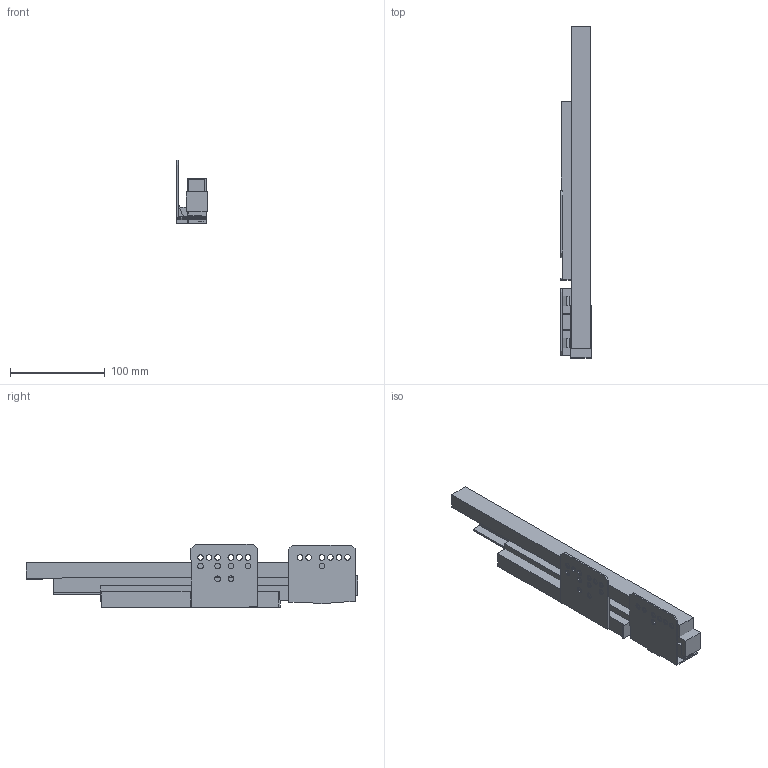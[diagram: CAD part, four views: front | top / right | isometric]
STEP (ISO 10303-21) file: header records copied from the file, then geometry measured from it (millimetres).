
FILE_DESCRIPTION (( 'STEP AP214' ), '1' );
FILE_NAME ('_IMOS Dynamic-XP VA 40kg NL350 LI.step', '2010-07-07T08:06:02', ( 'grass' ), ( '' ), 'SwSTEP 2.0', 'SolidWorks 2010', '' );
FILE_SCHEMA (( 'AUTOMOTIVE_DESIGN' ));
Length unit declared in the file: millimetre
Products named in the file (1): _IMOS Dynamic-XP VA 40kg NL350 LI
Bounding box: 32.04 x 349.89 x 66.67 mm (x, y, z)
Volume: 329381.1 mm3; surface area: 122260.5 mm2
Topology: 7 solids, 7 shells, 151 faces, 411 edges, 274 vertices
Faces by surface type: plane 111, cylinder 40
Entity records: 4913 total; most frequent: CARTESIAN_POINT 837, ORIENTED_EDGE 822, DIRECTION 795, EDGE_CURVE 411, VECTOR 331, LINE 331, VERTEX_POINT 274, AXIS2_PLACEMENT_3D 232
